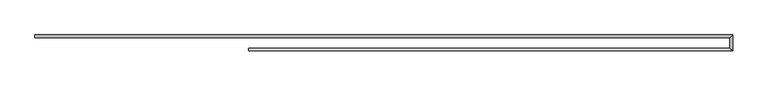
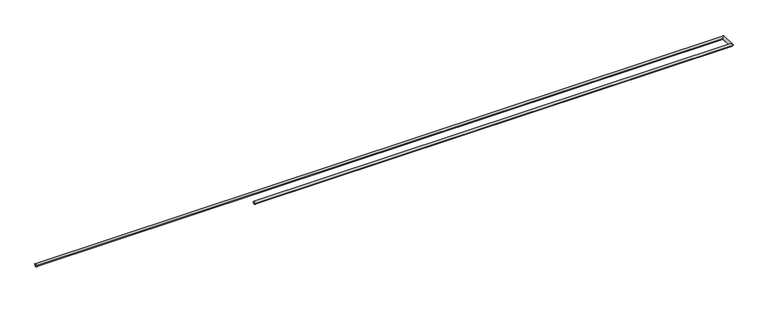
"""IFC4 building model written with IfcOpenShell, lengths in millimetres: railing geometry, Corrimão em aço."""

import ifcopenshell
import ifcopenshell.guid

model = None  # the IFC model being written
_history = None  # IfcOwnerHistory: only IFC2X3 demands one
_inside = {}  # id of a spatial element -> (the spatial element, [elements in it])
_under = {}  # id of a project, library or spatial element -> (it, [spatial elements below it])
_declared = {}  # id of a project -> (the project, [libraries it declares])
_typed = {}  # id of a type object -> (the type object, [elements of that type])
_made_of = {}  # id of a material, layer set ... -> (it, [elements and type objects made of it])


def new_model(schema):
    """Start an empty IFC model of exactly this schema.

    Asked for "IFC4X3", IfcOpenShell would pick the latest addendum, in which some entities
    have other attributes; the version numbers below select the first issue.
    IFC2X3 requires an IfcOwnerHistory on every rooted entity: one is made here for all.
    """
    global model, _history
    if schema == "IFC4X3":
        model = ifcopenshell.file(schema_version=(4, 3, 0, 0))
    else:
        model = ifcopenshell.file(schema=schema)
    _inside.clear()
    _under.clear()
    _declared.clear()
    _typed.clear()
    _made_of.clear()
    _history = None
    if model.schema == "IFC2X3":
        org = make("IfcOrganization", Name="unknown")
        user = make(
            "IfcPersonAndOrganization",
            ThePerson=make("IfcPerson", FamilyName="unknown"),
            TheOrganization=org,
        )
        app = make(
            "IfcApplication",
            ApplicationDeveloper=org,
            Version="unknown",
            ApplicationFullName="unknown",
            ApplicationIdentifier="unknown",
        )
        _history = make(
            "IfcOwnerHistory",
            OwningUser=user,
            OwningApplication=app,
            ChangeAction="ADDED",
            CreationDate=0,
        )
    return model


def make(cls, **values):
    """One entity of the class cls with the attributes given. An attribute that is None is left unset."""
    return model.create_entity(
        cls, **{name: value for name, value in values.items() if value is not None}
    )


def rooted(cls, **values):
    """An entity with a GlobalId (a new one), such as an element, a storey or a relation."""
    return make(cls, GlobalId=ifcopenshell.guid.new(), OwnerHistory=_history, **values)


def si_unit(unit_type, name, prefix=None):
    """IfcSIUnit, for example si_unit("LENGTHUNIT", "METRE", prefix="MILLI")."""
    return make("IfcSIUnit", UnitType=unit_type, Prefix=prefix, Name=name)


def assignment(units):
    """IfcUnitAssignment: the units of a project."""
    return None if units is None else make("IfcUnitAssignment", Units=units)


def point(xyz):
    """IfcCartesianPoint."""
    return None if xyz is None else make("IfcCartesianPoint", Coordinates=xyz)


def direction(xyz):
    """IfcDirection."""
    return None if xyz is None else make("IfcDirection", DirectionRatios=xyz)


def frame(location, z_axis=None, x_axis=None):
    """IfcAxis2Placement3D, a coordinate frame: its origin and axes. An axis left out is left unset."""
    return make(
        "IfcAxis2Placement3D",
        Location=point(location),
        Axis=direction(z_axis),
        RefDirection=direction(x_axis),
    )


def origin():
    """The frame at (0, 0, 0) with its axes left unset."""
    return frame((0.0, 0.0, 0.0))


def place(relative_to, where):
    """IfcLocalPlacement: puts the frame where relative to a parent placement (None: the world)."""
    return make(
        "IfcLocalPlacement", PlacementRelTo=relative_to, RelativePlacement=where
    )


def context(
    kind, dimensions, precision=None, world=None, true_north=None, identifier=None
):
    """IfcGeometricRepresentationContext, for example the 3D "Model" context."""
    return make(
        "IfcGeometricRepresentationContext",
        ContextIdentifier=identifier,
        ContextType=kind,
        CoordinateSpaceDimension=dimensions,
        Precision=precision,
        WorldCoordinateSystem=world,
        TrueNorth=true_north,
    )


def project(units=None, contexts=None):
    """IfcProject with its units and contexts."""
    return rooted(
        "IfcProject",
        Name="project",
        RepresentationContexts=contexts,
        UnitsInContext=assignment(units),
    )


def spatial(cls, under=None, at=None, **own):
    """A site, building, storey or space (cls), placed at a placement, below another one or the project."""
    s = rooted(cls, ObjectPlacement=at, **own)
    if under is not None:
        _under.setdefault(under.id(), (under, []))[1].append(s)
    return s


def circle_curve(where, radius):
    """IfcCircle in the frame where."""
    return make("IfcCircle", Position=where, Radius=radius)


def ellipse_curve(where, semi_axis1, semi_axis2):
    """IfcEllipse in the frame where."""
    return make(
        "IfcEllipse", Position=where, SemiAxis1=semi_axis1, SemiAxis2=semi_axis2
    )


def shape(context_of_items, identifier, shape_type, items):
    """IfcShapeRepresentation: the items that make up one representation, for example the "Body"."""
    return make(
        "IfcShapeRepresentation",
        ContextOfItems=context_of_items,
        RepresentationIdentifier=identifier,
        RepresentationType=shape_type,
        Items=items,
    )


def source(mapping_origin, context_of_items, identifier, shape_type, items):
    """IfcRepresentationMap: a shape defined once, which mapped items show again and again."""
    return make(
        "IfcRepresentationMap",
        MappingOrigin=mapping_origin,
        MappedRepresentation=shape(context_of_items, identifier, shape_type, items),
    )


def transform(
    local_origin,
    x_axis=None,
    y_axis=None,
    z_axis=None,
    scale=None,
    scale2=None,
    scale3=None,
    uniform=True,
):
    """IfcCartesianTransformationOperator3D, or its non-uniform kind. x_axis, y_axis, z_axis: its Axis1, 2, 3."""
    if uniform:
        return make(
            "IfcCartesianTransformationOperator3D",
            Axis1=direction(x_axis),
            Axis2=direction(y_axis),
            LocalOrigin=point(local_origin),
            Scale=scale,
            Axis3=direction(z_axis),
        )
    return make(
        "IfcCartesianTransformationOperator3DnonUniform",
        Axis1=direction(x_axis),
        Axis2=direction(y_axis),
        LocalOrigin=point(local_origin),
        Scale=scale,
        Axis3=direction(z_axis),
        Scale2=scale2,
        Scale3=scale3,
    )


def mapped(mapping_source, mapping_target):
    """IfcMappedItem: shows the shape of a source again, moved by a transform."""
    return make(
        "IfcMappedItem", MappingSource=mapping_source, MappingTarget=mapping_target
    )


def made_of(thing, what):
    """Note that an element or type object is made of a material, layer set ...; save() writes the relation."""
    if what is not None:
        _made_of.setdefault(what.id(), (what, []))[1].append(thing)
    return thing


def element(
    cls,
    number,
    at=None,
    inside=None,
    cuts=None,
    type_object=None,
    material=None,
    context=None,
    identifier="Body",
    shape_type=None,
    held_by="IfcProductDefinitionShape",
    body=None,
    shapes=None,
    **own,
):
    """One element of the class cls, such as IfcWall. Its Tag is "e" and its number.

    at: its placement. inside: the storey or other place that contains it. cuts: it is an
    opening in that element (IfcRelVoidsElement). A single representation is given by context,
    identifier, shape_type and body (its items); several are given by shapes. held_by: the class
    of the entity that holds the representations. save() writes the other relations.
    """
    e = rooted(cls, Tag="e%d" % number, ObjectPlacement=at, **own)
    if body is not None:
        shapes = [shape(context, identifier, shape_type, body)]
    if shapes is not None:
        e.Representation = make(held_by, Representations=shapes)
    if inside is not None:
        _inside.setdefault(inside.id(), (inside, []))[1].append(e)
    if cuts is not None:
        rooted(
            "IfcRelVoidsElement", RelatingBuildingElement=cuts, RelatedOpeningElement=e
        )
    if type_object is not None:
        _typed.setdefault(type_object.id(), (type_object, []))[1].append(e)
    return made_of(e, material)


def aggregate(whole, parts):
    """IfcRelAggregates: a whole, such as a stair, and the parts it consists of."""
    return rooted("IfcRelAggregates", RelatingObject=whole, RelatedObjects=parts)


def save(model, path):
    """Write the relations noted so far, then the file.

    IfcRelAggregates (storeys below a building ...), IfcRelContainedInSpatialStructure (elements
    in a storey), IfcRelDefinesByType, IfcRelAssociatesMaterial and IfcRelDeclares: one each for
    every whole, place, type object, material and project.
    """
    for whole, parts in _under.values():
        aggregate(whole, parts)
    for where, things in _inside.values():
        rooted(
            "IfcRelContainedInSpatialStructure",
            RelatedElements=things,
            RelatingStructure=where,
        )
    for kind, things in _typed.values():
        rooted("IfcRelDefinesByType", RelatedObjects=things, RelatingType=kind)
    for what, things in _made_of.values():
        rooted("IfcRelAssociatesMaterial", RelatedObjects=things, RelatingMaterial=what)
    for by, libraries in _declared.values():
        rooted("IfcRelDeclares", RelatingContext=by, RelatedDefinitions=libraries)
    model.write(path)


def plane_surface(at):
    """IfcPlane: the flat surface through the origin of the frame at, square to its z axis."""
    return make("IfcPlane", Position=at)


def cylinder_surface(at, radius):
    """IfcCylindricalSurface: all points at the distance radius from the z axis of the frame at."""
    return make("IfcCylindricalSurface", Position=at, Radius=radius)


def advanced_brep(points, edges, surfaces, faces):
    """IfcAdvancedBrep: a solid bounded by faces that lie on surfaces and meet in shared edges.

    An edge is (start, end): straight between two places in points (the first is 0);
    or (start, end, curve); or (start, end, curve, False) where it runs against its curve.
    A face is (place in surfaces, loops), or (place, loops, False) where it looks against
    its surface's normal. A loop lists edges by number (the first is 1), with a minus sign
    where the edge is run from its end to its start. The first loop is the outer one.
    """
    corners = [point(p) for p in points]
    vertices = [make("IfcVertexPoint", VertexGeometry=c) for c in corners]
    made = []
    for start, end, *more in edges:
        made.append(
            make(
                "IfcEdgeCurve",
                EdgeStart=vertices[start],
                EdgeEnd=vertices[end],
                EdgeGeometry=more[0] if more else make("IfcPolyline", Points=[corners[start], corners[end]]),
                SameSense=more[1] if len(more) > 1 else True,
            )
        )
    hull = []
    for where, loops, *sense in faces:
        bounds = []
        for j, loop in enumerate(loops):
            ring = [make("IfcOrientedEdge", EdgeElement=made[abs(k) - 1], Orientation=k > 0) for k in loop]
            bounds.append(
                make(
                    "IfcFaceOuterBound" if j == 0 else "IfcFaceBound",
                    Bound=make("IfcEdgeLoop", EdgeList=ring),
                    Orientation=True,
                )
            )
        hull.append(make("IfcAdvancedFace", Bounds=bounds, FaceSurface=surfaces[where], SameSense=sense[0] if sense else True))
    return make("IfcAdvancedBrep", Outer=make("IfcClosedShell", CfsFaces=hull))


def railing_c25ff7d3(model_context):
    return source(origin(), model_context, "Body", "AdvancedBrep", [
        advanced_brep(
        [(-12174.342202, -9497.0637549, 670.0), (-12174.342202, -9537.0637549, 670.0), (-1697.3834094, -9497.0637549, 670.0), (-1737.3834094, -9537.0637549, 670.0), (-1697.3834094, -9737.0637549, 670.0), (-1737.3834094, -9697.0637549, 670.0), (-8967.3834094, -9737.0637549, 670.0), (-8967.3834094, -9697.0637549, 670.0)],
        [
            (0, 1, circle_curve(frame((-12174.342202, -9517.0637549, 670.0), z_axis=(-1.0, 0.0, 0.0), x_axis=(0.0, -1.0, 0.0)), 20.0)),
            (1, 0, circle_curve(frame((-12174.342202, -9517.0637549, 670.0), z_axis=(-1.0, 0.0, 0.0), x_axis=(0.0, -1.0, 0.0)), 20.0)),
            (0, 2),
            (2, 3, ellipse_curve(frame((-1717.3834094, -9517.0637549, 670.0), z_axis=(-0.7071067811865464, 0.7071067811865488, 0.0), x_axis=(-0.7071067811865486, -0.7071067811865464, 0.0)), 28.2842712, 20.0)),
            (3, 1),
            (3, 2, ellipse_curve(frame((-1717.3834094, -9517.0637549, 670.0), z_axis=(-0.7071067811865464, 0.7071067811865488, 0.0), x_axis=(-0.7071067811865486, -0.7071067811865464, 0.0)), 28.2842712, 20.0)),
            (2, 4),
            (4, 5, ellipse_curve(frame((-1717.3834094, -9717.0637549, 670.0), z_axis=(0.7071067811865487, 0.7071067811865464, 0.0), x_axis=(-0.7071067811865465, 0.7071067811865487, 0.0)), 28.2842712, 20.0)),
            (5, 3),
            (5, 4, ellipse_curve(frame((-1717.3834094, -9717.0637549, 670.0), z_axis=(0.7071067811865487, 0.7071067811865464, 0.0), x_axis=(-0.7071067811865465, 0.7071067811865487, 0.0)), 28.2842712, 20.0)),
            (6, 7, circle_curve(frame((-8967.3834094, -9717.0637549, 670.0), z_axis=(-1.0, 0.0, 0.0), x_axis=(0.0, 1.0, 0.0)), 20.0)),
            (7, 6, circle_curve(frame((-8967.3834094, -9717.0637549, 670.0), z_axis=(-1.0, 0.0, 0.0), x_axis=(0.0, 1.0, 0.0)), 20.0)),
            (4, 6),
            (7, 5),
        ],
        [
            plane_surface(frame((-12174.342202, -9517.0637549, 690.0), z_axis=(-1.0, 0.0, 0.0), x_axis=(0.0, 1.0, 0.0))),
            cylinder_surface(frame((-12174.342202, -9517.0637549, 670.0), z_axis=(-1.0, 0.0, 0.0), x_axis=(0.0, -1.0, 0.0)), 20.0),
            cylinder_surface(frame((-1717.3834094, -9517.0637549, 670.0), z_axis=(0.0, 1.0, 0.0), x_axis=(-1.0, 0.0, 0.0)), 20.0),
            plane_surface(frame((-8967.3834094, -9717.0637549, 690.0), z_axis=(-1.0, 0.0, 0.0), x_axis=(0.0, -1.0, 0.0))),
            cylinder_surface(frame((-1717.3834094, -9717.0637549, 670.0), z_axis=(1.0, 0.0, 0.0), x_axis=(0.0, 1.0, 0.0)), 20.0),
        ],
        [
            (0, [[1, 2]]),
            (1, [[-1, 3, 4, 5]]),
            (1, [[-2, -5, 6, -3]]),
            (2, [[-4, 7, 8, 9]]),
            (2, [[-6, -9, 10, -7]]),
            (3, [[11, 12]]),
            (4, [[-8, 13, -12, 14]]),
            (4, [[-10, -14, -11, -13]]),
        ],
    ),
    ])


if __name__ == "__main__":
    model = new_model("IFC4")
    model_context = context("Model", 3, world=origin())
    ifc_project = project(units=[si_unit("LENGTHUNIT", "METRE", prefix="MILLI")], contexts=[model_context])
    site = spatial("IfcSite", under=ifc_project)
    building = spatial("IfcBuilding", under=site)
    placement = place(None, origin())
    railing_shape = railing_c25ff7d3(model_context)
    element("IfcRailing", 1, ObjectType="Corrimão em aço", at=placement, inside=building, context=model_context, shape_type="MappedRepresentation", body=[
        mapped(railing_shape, transform((0.0, 0.0, 0.0), x_axis=(1.0, 0.0, 0.0), y_axis=(0.0, 1.0, 0.0), z_axis=(0.0, 0.0, 1.0))),
    ])
    save(model, "model.ifc")
